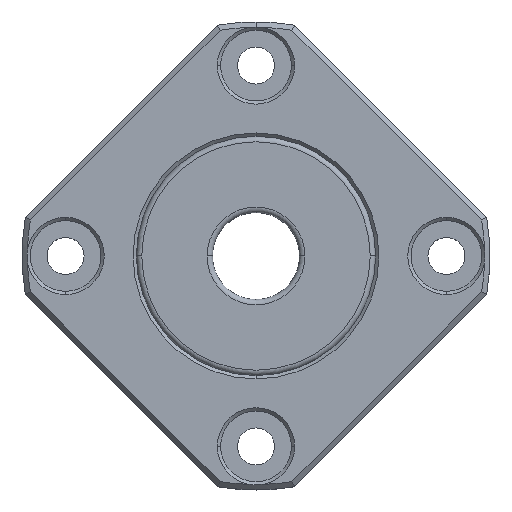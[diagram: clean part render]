
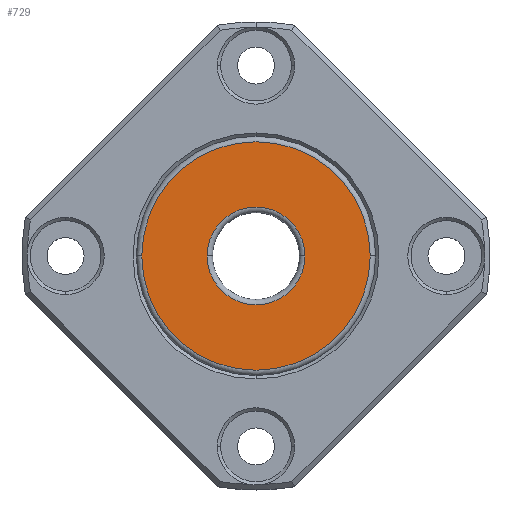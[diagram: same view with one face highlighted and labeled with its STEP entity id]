
A CAD part, top view. The second image highlights one B-rep face of the part: STEP entity #729.
In plain terms, the highlighted planar face has unit normal (0, 0, 1).
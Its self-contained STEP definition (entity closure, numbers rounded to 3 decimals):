
#26 = CARTESIAN_POINT ( 'NONE',  ( 10.5, 0., 3.5 ) ) ;
#29 = CARTESIAN_POINT ( 'NONE',  ( -10.5, 0., 3.5 ) ) ;
#30 = CARTESIAN_POINT ( 'NONE',  ( -4.5, 0., 3.5 ) ) ;
#415 = CARTESIAN_POINT ( 'NONE',  ( 0., 0., 3.5 ) ) ;
#416 = DIRECTION ( 'NONE',  ( 0., 0., -1. ) ) ;
#417 = DIRECTION ( 'NONE',  ( 1., 0., 0. ) ) ;
#418 = CARTESIAN_POINT ( 'NONE',  ( 0., 0., 3.5 ) ) ;
#419 = DIRECTION ( 'NONE',  ( 0., 0., 1. ) ) ;
#420 = DIRECTION ( 'NONE',  ( 1., 0., 0. ) ) ;
#429 = EDGE_CURVE ( 'NONE', #1177, #883, #435, .T. ) ;
#435 = CIRCLE ( 'NONE', #984, 4.5 ) ;
#676 = EDGE_CURVE ( 'NONE', #883, #1177, #803, .T. ) ;
#677 = EDGE_CURVE ( 'NONE', #1174, #921, #804, .T. ) ;
#712 = EDGE_CURVE ( 'NONE', #921, #1174, #821, .T. ) ;
#729 = ADVANCED_FACE ( 'NONE', ( #1556, #1555 ), #1796, .T. ) ;
#803 = CIRCLE ( 'NONE', #1470, 4.5 ) ;
#804 = CIRCLE ( 'NONE', #1471, 10.5 ) ;
#821 = CIRCLE ( 'NONE', #1530, 10.5 ) ;
#883 = VERTEX_POINT ( 'NONE', #1929 ) ;
#921 = VERTEX_POINT ( 'NONE', #26 ) ;
#984 = AXIS2_PLACEMENT_3D ( 'NONE', #2503, #2504, #2505 ) ;
#1174 = VERTEX_POINT ( 'NONE', #29 ) ;
#1177 = VERTEX_POINT ( 'NONE', #30 ) ;
#1292 = EDGE_LOOP ( 'NONE', ( #2377, #2381 ) ) ;
#1294 = EDGE_LOOP ( 'NONE', ( #2378, #2380 ) ) ;
#1470 = AXIS2_PLACEMENT_3D ( 'NONE', #415, #416, #417 ) ;
#1471 = AXIS2_PLACEMENT_3D ( 'NONE', #418, #419, #420 ) ;
#1530 = AXIS2_PLACEMENT_3D ( 'NONE', #1744, #1745, #1746 ) ;
#1555 = FACE_OUTER_BOUND ( 'NONE', #1292, .T. ) ;
#1556 = FACE_BOUND ( 'NONE', #1294, .T. ) ;
#1562 = AXIS2_PLACEMENT_3D ( 'NONE', #1797, #1798, #1799 ) ;
#1744 = CARTESIAN_POINT ( 'NONE',  ( 0., 0., 3.5 ) ) ;
#1745 = DIRECTION ( 'NONE',  ( 0., 0., 1. ) ) ;
#1746 = DIRECTION ( 'NONE',  ( 1., 0., 0. ) ) ;
#1796 = PLANE ( 'NONE',  #1562 ) ;
#1797 = CARTESIAN_POINT ( 'NONE',  ( 0., 0., 3.5 ) ) ;
#1798 = DIRECTION ( 'NONE',  ( 0., 0., 1. ) ) ;
#1799 = DIRECTION ( 'NONE',  ( 1., 0., 0. ) ) ;
#1929 = CARTESIAN_POINT ( 'NONE',  ( 4.5, 0., 3.5 ) ) ;
#2377 = ORIENTED_EDGE ( 'NONE', *, *, #712, .T. ) ;
#2378 = ORIENTED_EDGE ( 'NONE', *, *, #676, .T. ) ;
#2380 = ORIENTED_EDGE ( 'NONE', *, *, #429, .T. ) ;
#2381 = ORIENTED_EDGE ( 'NONE', *, *, #677, .T. ) ;
#2503 = CARTESIAN_POINT ( 'NONE',  ( 0., 0., 3.5 ) ) ;
#2504 = DIRECTION ( 'NONE',  ( 0., 0., -1. ) ) ;
#2505 = DIRECTION ( 'NONE',  ( 1., 0., 0. ) ) ;
